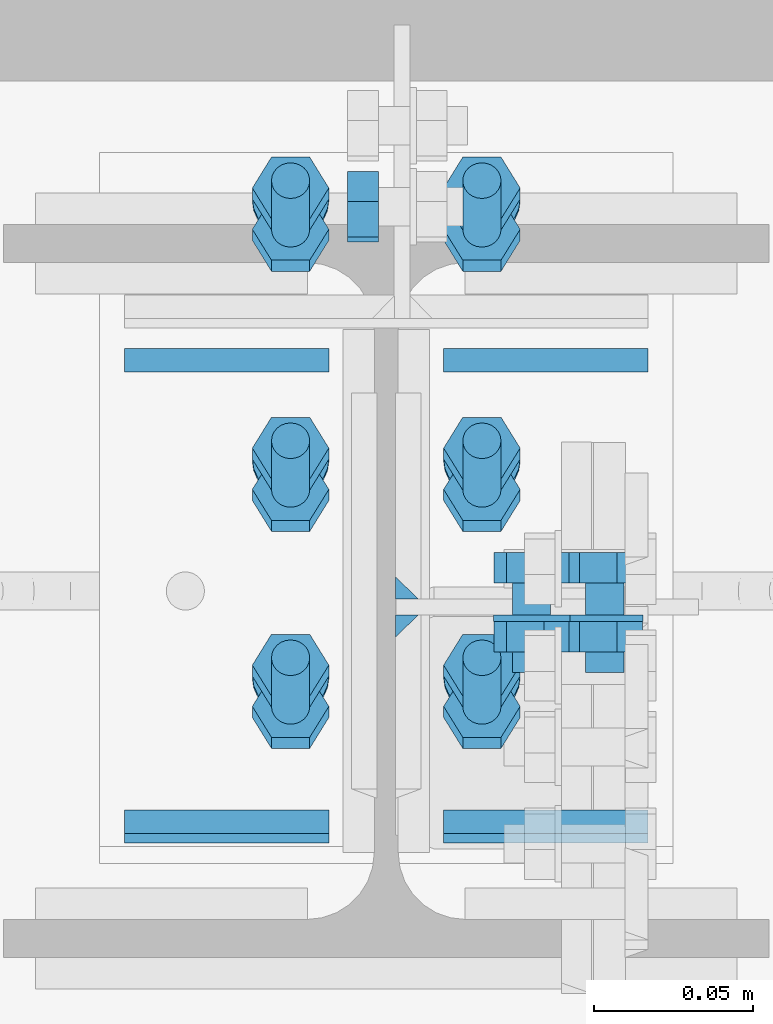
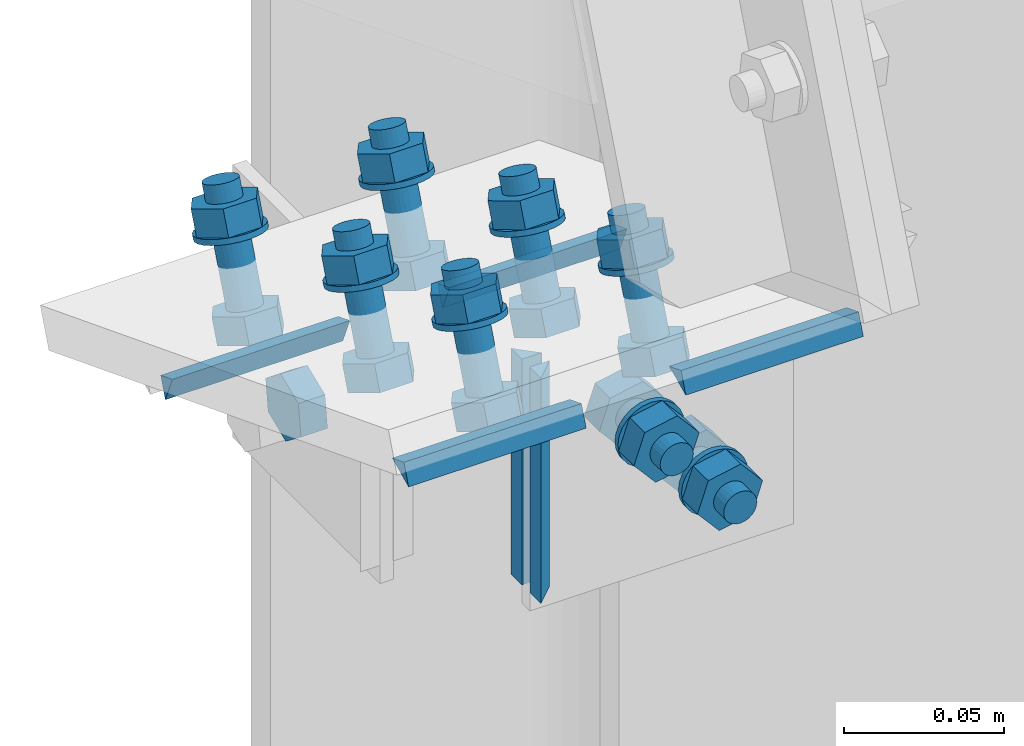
# One storey, part 22 of 72: 33 mechanical fasteners, 10 fasteners.
"""IFC4 building model written with IfcOpenShell, lengths in metres."""

from ifc_helpers import new_model, si_unit, frame, origin_with_axes, place, context, project, spatial, polyline, outline, extrude, type_object, element, save


model = new_model("IFC4")

# Units and contexts
model_context = context("Model", 3, precision=1e-05, world=origin_with_axes())
ifc_project = project(units=[si_unit("LENGTHUNIT", "METRE"), si_unit("AREAUNIT", "SQUARE_METRE"), si_unit("VOLUMEUNIT", "CUBIC_METRE"), si_unit("MASSUNIT", "GRAM", prefix="KILO"), si_unit("TIMEUNIT", "SECOND"), si_unit("PLANEANGLEUNIT", "RADIAN"), si_unit("SOLIDANGLEUNIT", "STERADIAN"), si_unit("THERMODYNAMICTEMPERATUREUNIT", "DEGREE_CELSIUS")], contexts=[model_context])

# Site, building, storey
placement_1 = place(None, origin_with_axes())
site = spatial("IfcSite", under=ifc_project, at=placement_1, Name="Italia", CompositionType="ELEMENT")
building = spatial("IfcBuilding", under=site, at=placement_1, Name="Uffici", CompositionType="ELEMENT")
storey = spatial("IfcBuildingStorey", under=building, at=placement_1, Name="Storey 0", CompositionType="ELEMENT", Elevation=0.0)

# Fasteners
fastener_type_1 = type_object("IfcFastenerType", Name="Collegamento 0201_0101", PredefinedType="WELD")
placement_2 = place(placement_1, origin_with_axes())
fastener_1_placement = place(placement_2, origin_with_axes())
element("IfcFastener", 1, at=fastener_1_placement, inside=storey, type_object=fastener_type_1, Name="Collegamento 0201_0101", context=model_context, shape_type="SweptSolid", body=[
    extrude(outline(polyline([(0.0, 0.0), (-0.00443701, -0.0104866), (-0.00739191, -0.00286627), (0.0, 0.0)])), frame((0.08205, 0.0686731, 6.96138), z_axis=(-1.0, 0.0, 0.0), x_axis=(0.0, -1.0, 0.0)), (0.0, 0.0, 1.0), 0.0641),
])
fastener_type_2 = type_object("IfcFastenerType", Name="Collegamento 0201_0101", PredefinedType="WELD")
fastener_2_placement = place(placement_2, origin_with_axes())
element("IfcFastener", 2, at=fastener_2_placement, inside=storey, type_object=fastener_type_2, Name="Collegamento 0201_0101", context=model_context, shape_type="SweptSolid", body=[
    extrude(outline(polyline([(0.0, 0.0), (-0.0103468, -0.00475454), (-0.00739191, 0.00286627), (0.0, 0.0)])), frame((0.01795, -0.0686362, 7.01462), z_axis=(1.0, 0.0, 0.0), x_axis=(0.0, 1.0, 0.0)), (0.0, 0.0, 1.0), 0.0641),
])
fastener_type_3 = type_object("IfcFastenerType", Name="Collegamento 0201_0101", PredefinedType="WELD")
fastener_3_placement = place(placement_2, origin_with_axes())
element("IfcFastener", 3, at=fastener_3_placement, inside=storey, type_object=fastener_type_3, Name="Collegamento 0201_0101", context=model_context, shape_type="SweptSolid", body=[
    extrude(outline(polyline([(0.0, 0.0), (-0.0103468, -0.00475454), (-0.00739191, 0.00286627), (0.0, 0.0)])), frame((-0.08205, -0.0686362, 7.01462), z_axis=(1.0, 0.0, 0.0), x_axis=(0.0, 1.0, 0.0)), (0.0, 0.0, 1.0), 0.0641),
])
fastener_type_4 = type_object("IfcFastenerType", Name="Collegamento 0201_0101", PredefinedType="WELD")
fastener_4_placement = place(placement_2, origin_with_axes())
element("IfcFastener", 4, at=fastener_4_placement, inside=storey, type_object=fastener_type_4, Name="Collegamento 0201_0101", context=model_context, shape_type="SweptSolid", body=[
    extrude(outline(polyline([(0.0, 0.0), (-0.00443701, -0.0104866), (-0.00739191, -0.00286627), (0.0, 0.0)])), frame((-0.01795, 0.0686731, 6.96138), z_axis=(-1.0, 0.0, 0.0), x_axis=(0.0, -1.0, 0.0)), (0.0, 0.0, 1.0), 0.0641),
])
fastener_type_5 = type_object("IfcFastenerType", Name="Collegamento 0201_0101", PredefinedType="WELD")
fastener_5_placement = place(placement_2, origin_with_axes())
element("IfcFastener", 5, at=fastener_5_placement, inside=storey, type_object=fastener_type_5, Name="Collegamento 0201_0101", context=model_context, shape_type="SweptSolid", body=[
    extrude(outline(polyline([(0.0, 0.0), (-0.00443701, -0.0104866), (-0.00739191, -0.00286627), (0.0, 0.0)])), frame((0.08205, 0.0686731, 6.96138), z_axis=(-1.0, 0.0, 0.0), x_axis=(0.0, -1.0, 0.0)), (0.0, 0.0, 1.0), 0.0641),
])
fastener_type_6 = type_object("IfcFastenerType", Name="Collegamento 0201_0101", PredefinedType="WELD")
fastener_6_placement = place(placement_2, origin_with_axes())
element("IfcFastener", 6, at=fastener_6_placement, inside=storey, type_object=fastener_type_6, Name="Collegamento 0201_0101", context=model_context, shape_type="SweptSolid", body=[
    extrude(outline(polyline([(0.0, 0.0), (-0.0103468, -0.00475454), (-0.00739191, 0.00286627), (0.0, 0.0)])), frame((0.01795, -0.0686362, 7.01462), z_axis=(1.0, 0.0, 0.0), x_axis=(0.0, 1.0, 0.0)), (0.0, 0.0, 1.0), 0.0641),
])
fastener_type_7 = type_object("IfcFastenerType", Name="Collegamento 0201_0101", PredefinedType="WELD")
fastener_7_placement = place(placement_2, origin_with_axes())
element("IfcFastener", 7, at=fastener_7_placement, inside=storey, type_object=fastener_type_7, Name="Collegamento 0201_0101", context=model_context, shape_type="SweptSolid", body=[
    extrude(outline(polyline([(0.0, 0.0), (-0.0103468, -0.00475454), (-0.00739191, 0.00286627), (0.0, 0.0)])), frame((-0.08205, -0.0686362, 7.01462), z_axis=(1.0, 0.0, 0.0), x_axis=(0.0, 1.0, 0.0)), (0.0, 0.0, 1.0), 0.0641),
])
fastener_type_8 = type_object("IfcFastenerType", Name="Collegamento 0201_0101", PredefinedType="WELD")
fastener_8_placement = place(placement_2, origin_with_axes())
element("IfcFastener", 8, at=fastener_8_placement, inside=storey, type_object=fastener_type_8, Name="Collegamento 0201_0101", context=model_context, shape_type="SweptSolid", body=[
    extrude(outline(polyline([(0.0, 0.0), (-0.00443701, -0.0104866), (-0.00739191, -0.00286627), (0.0, 0.0)])), frame((-0.01795, 0.0686731, 6.96138), z_axis=(-1.0, 0.0, 0.0), x_axis=(0.0, -1.0, 0.0)), (0.0, 0.0, 1.0), 0.0641),
])

# Mechanical fasteners
mechanical_fastener_type_1 = type_object("IfcMechanicalFastenerType", Name="Collegamento 0201_0101", PredefinedType="BOLT")
mechanical_fastener_1_placement = place(placement_2, origin_with_axes())
element("IfcMechanicalFastener", 9, at=mechanical_fastener_1_placement, inside=storey, type_object=mechanical_fastener_type_1, Name="Collegamento 0201_0101", NominalDiameter=0.012, context=model_context, shape_type="SweptSolid", body=[
    extrude(outline(polyline([(0.0, 0.0), (0.012, 0.0), (0.018, -0.0103922), (0.012, -0.0207846), (0.0, -0.0207846), (-0.006, -0.0103922), (0.0, 0.0)])), frame((0.024, 0.103764, 6.94772), z_axis=(0.0, -0.361526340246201, -0.932361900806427), x_axis=(1.0, 0.0, 0.0)), (0.0, 0.0, 1.0), 0.00960004),
])
mechanical_fastener_type_2 = type_object("IfcMechanicalFastenerType", Name="Collegamento 0201_0101", PredefinedType="BOLT")
mechanical_fastener_2_placement = place(placement_2, origin_with_axes())
element("IfcMechanicalFastener", 10, at=mechanical_fastener_2_placement, inside=storey, type_object=mechanical_fastener_type_2, Name="Collegamento 0201_0101", NominalDiameter=0.012, context=model_context, shape_type="SweptSolid", body=[
    extrude(outline(polyline([(0.0, 0.0), (-0.000204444, -0.00155282), (-0.000803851, -0.00300002), (-0.00175736, -0.00424266), (-0.003, -0.00519633), (-0.00444709, -0.00579548), (-0.006, -0.0059998), (-0.00755292, -0.00579548), (-0.009, -0.00519633), (-0.0102426, -0.00424266), (-0.0111962, -0.00300002), (-0.0117956, -0.00155282), (-0.012, 0.0), (-0.0117956, 0.00155282), (-0.0111962, 0.00300002), (-0.0102426, 0.00424266), (-0.009, 0.00519633), (-0.00755291, 0.00579548), (-0.006, 0.00600004), (-0.00444709, 0.00579548), (-0.003, 0.00519633), (-0.00175736, 0.00424266), (-0.000803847, 0.00300002), (-0.000204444, 0.00155282), (0.0, 0.0)])), frame((0.036, 0.12871, 6.9833), z_axis=(0.0, -0.361526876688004, -0.932361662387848), x_axis=(1.0, 0.0, 0.0)), (0.0, 0.0, 1.0), 0.0422001),
])
mechanical_fastener_type_3 = type_object("IfcMechanicalFastenerType", Name="Collegamento 0201_0101", PredefinedType="BOLT")
mechanical_fastener_3_placement = place(placement_2, origin_with_axes())
element("IfcMechanicalFastener", 11, at=mechanical_fastener_3_placement, inside=storey, type_object=mechanical_fastener_type_3, Name="Collegamento 0201_0101", NominalDiameter=0.012, context=model_context, shape_type="SweptSolid", body=[
    extrude(outline(polyline([(0.0, 0.0), (0.012, 0.0), (0.018, -0.0103922), (0.012, -0.0207846), (0.0, -0.0207846), (-0.006, -0.0103922), (0.0, 0.0)])), frame((0.024, 0.116706, 6.9811), z_axis=(0.0, -0.361526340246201, -0.932361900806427), x_axis=(1.0, 0.0, 0.0)), (0.0, 0.0, 1.0), 0.00960004),
])
mechanical_fastener_type_4 = type_object("IfcMechanicalFastenerType", Name="Collegamento 0201_0101", PredefinedType="BOLT")
mechanical_fastener_4_placement = place(placement_2, origin_with_axes())
element("IfcMechanicalFastener", 12, at=mechanical_fastener_4_placement, inside=storey, type_object=mechanical_fastener_type_4, Name="Collegamento 0201_0101", NominalDiameter=0.024, context=model_context, shape_type="SweptSolid", body=[
    extrude(outline(polyline([(0.0, 0.0), (-0.000408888, -0.00310588), (-0.00160769, -0.00600004), (-0.00351472, -0.00848532), (-0.006, -0.0103922), (-0.00889417, -0.0115912), (-0.012, -0.0120001), (-0.0151058, -0.0115912), (-0.018, -0.0103922), (-0.0204853, -0.00848532), (-0.0223923, -0.00600004), (-0.0235911, -0.00310588), (-0.024, 0.0), (-0.0235911, 0.00310564), (-0.0223923, 0.00600004), (-0.0204853, 0.00848508), (-0.018, 0.0103922), (-0.0151058, 0.011591), (-0.012, 0.0119998), (-0.00889417, 0.011591), (-0.006, 0.0103922), (-0.00351471, 0.00848508), (-0.00160769, 0.00600004), (-0.000408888, 0.00310564), (0.0, 0.0)])), frame((0.042, 0.122925, 6.96839), z_axis=(0.0, -0.361528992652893, -0.932360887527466), x_axis=(1.0, 0.0, 0.0)), (0.0, 0.0, 1.0), 0.0020002),
])
mechanical_fastener_type_5 = type_object("IfcMechanicalFastenerType", Name="Collegamento 0201_0101", PredefinedType="BOLT")
mechanical_fastener_5_placement = place(placement_2, origin_with_axes())
element("IfcMechanicalFastener", 13, at=mechanical_fastener_5_placement, inside=storey, type_object=mechanical_fastener_type_5, Name="Collegamento 0201_0101", NominalDiameter=0.012, context=model_context, shape_type="SweptSolid", body=[
    extrude(outline(polyline([(0.0, 0.0), (0.012, 0.0), (0.018, -0.0103922), (0.012, -0.0207846), (0.0, -0.0207846), (-0.006, -0.0103922), (0.0, 0.0)])), frame((-0.036, 0.103764, 6.94772), z_axis=(0.0, -0.361526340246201, -0.932361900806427), x_axis=(1.0, 0.0, 0.0)), (0.0, 0.0, 1.0), 0.00960004),
])
mechanical_fastener_type_6 = type_object("IfcMechanicalFastenerType", Name="Collegamento 0201_0101", PredefinedType="BOLT")
mechanical_fastener_6_placement = place(placement_2, origin_with_axes())
element("IfcMechanicalFastener", 14, at=mechanical_fastener_6_placement, inside=storey, type_object=mechanical_fastener_type_6, Name="Collegamento 0201_0101", NominalDiameter=0.012, context=model_context, shape_type="SweptSolid", body=[
    extrude(outline(polyline([(0.0, 0.0), (-0.000204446, -0.00155282), (-0.000803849, -0.00300002), (-0.00175736, -0.00424266), (-0.003, -0.00519633), (-0.00444709, -0.00579548), (-0.006, -0.0059998), (-0.00755291, -0.00579548), (-0.009, -0.00519633), (-0.0102426, -0.00424266), (-0.0111962, -0.00300002), (-0.0117956, -0.00155282), (-0.012, 0.0), (-0.0117956, 0.00155282), (-0.0111962, 0.00300002), (-0.0102426, 0.00424266), (-0.009, 0.00519633), (-0.00755291, 0.00579548), (-0.006, 0.00600004), (-0.00444709, 0.00579548), (-0.003, 0.00519633), (-0.00175736, 0.00424266), (-0.000803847, 0.00300002), (-0.000204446, 0.00155282), (0.0, 0.0)])), frame((-0.024, 0.12871, 6.9833), z_axis=(0.0, -0.361526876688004, -0.932361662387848), x_axis=(1.0, 0.0, 0.0)), (0.0, 0.0, 1.0), 0.0422001),
])
mechanical_fastener_type_7 = type_object("IfcMechanicalFastenerType", Name="Collegamento 0201_0101", PredefinedType="BOLT")
mechanical_fastener_7_placement = place(placement_2, origin_with_axes())
element("IfcMechanicalFastener", 15, at=mechanical_fastener_7_placement, inside=storey, type_object=mechanical_fastener_type_7, Name="Collegamento 0201_0101", NominalDiameter=0.012, context=model_context, shape_type="SweptSolid", body=[
    extrude(outline(polyline([(0.0, 0.0), (0.012, 0.0), (0.018, -0.0103922), (0.012, -0.0207846), (0.0, -0.0207846), (-0.006, -0.0103922), (0.0, 0.0)])), frame((-0.036, 0.116706, 6.9811), z_axis=(0.0, -0.361526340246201, -0.932361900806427), x_axis=(1.0, 0.0, 0.0)), (0.0, 0.0, 1.0), 0.00960004),
])
mechanical_fastener_type_8 = type_object("IfcMechanicalFastenerType", Name="Collegamento 0201_0101", PredefinedType="BOLT")
mechanical_fastener_8_placement = place(placement_2, origin_with_axes())
element("IfcMechanicalFastener", 16, at=mechanical_fastener_8_placement, inside=storey, type_object=mechanical_fastener_type_8, Name="Collegamento 0201_0101", NominalDiameter=0.024, context=model_context, shape_type="SweptSolid", body=[
    extrude(outline(polyline([(0.0, 0.0), (-0.00040889, -0.00310588), (-0.0016077, -0.00600004), (-0.00351472, -0.00848532), (-0.006, -0.0103922), (-0.00889417, -0.0115912), (-0.012, -0.0120001), (-0.0151058, -0.0115912), (-0.018, -0.0103922), (-0.0204853, -0.00848532), (-0.0223923, -0.00600004), (-0.0235911, -0.00310588), (-0.024, 0.0), (-0.0235911, 0.00310564), (-0.0223923, 0.00600004), (-0.0204853, 0.00848508), (-0.018, 0.0103922), (-0.0151058, 0.011591), (-0.012, 0.0119998), (-0.00889417, 0.011591), (-0.006, 0.0103922), (-0.00351472, 0.00848508), (-0.00160769, 0.00600004), (-0.00040889, 0.00310564), (0.0, 0.0)])), frame((-0.018, 0.122925, 6.96839), z_axis=(0.0, -0.361528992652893, -0.932360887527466), x_axis=(1.0, 0.0, 0.0)), (0.0, 0.0, 1.0), 0.0020002),
])
mechanical_fastener_type_9 = type_object("IfcMechanicalFastenerType", Name="Collegamento 0201_0101", PredefinedType="BOLT")
mechanical_fastener_9_placement = place(placement_2, origin_with_axes())
element("IfcMechanicalFastener", 17, at=mechanical_fastener_9_placement, inside=storey, type_object=mechanical_fastener_type_9, Name="Collegamento 0201_0101", NominalDiameter=0.012, context=model_context, shape_type="SweptSolid", body=[
    extrude(outline(polyline([(0.0, 0.0), (0.012, 0.0), (0.018, -0.0103927), (0.012, -0.0207849), (0.0, -0.0207849), (-0.006, -0.0103927), (0.0, 0.0)])), frame((0.024, -0.0458802, 7.00574), z_axis=(0.0, -0.361526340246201, -0.932361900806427), x_axis=(1.0, 0.0, 0.0)), (0.0, 0.0, 1.0), 0.00960004),
])
mechanical_fastener_type_10 = type_object("IfcMechanicalFastenerType", Name="Collegamento 0201_0101", PredefinedType="BOLT")
mechanical_fastener_10_placement = place(placement_2, origin_with_axes())
element("IfcMechanicalFastener", 18, at=mechanical_fastener_10_placement, inside=storey, type_object=mechanical_fastener_type_10, Name="Collegamento 0201_0101", NominalDiameter=0.012, context=model_context, shape_type="SweptSolid", body=[
    extrude(outline(polyline([(0.0, 0.0), (-0.000204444, -0.00155282), (-0.000803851, -0.00300002), (-0.00175736, -0.00424266), (-0.003, -0.00519633), (-0.00444709, -0.00579548), (-0.006, -0.00600004), (-0.00755292, -0.00579548), (-0.009, -0.00519633), (-0.0102426, -0.00424266), (-0.0111962, -0.00300002), (-0.0117956, -0.00155282), (-0.012, 0.0), (-0.0117956, 0.00155282), (-0.0111962, 0.00300002), (-0.0102426, 0.00424266), (-0.009, 0.00519633), (-0.00755291, 0.00579548), (-0.006, 0.0059998), (-0.00444709, 0.00579548), (-0.003, 0.00519633), (-0.00175736, 0.00424266), (-0.000803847, 0.00300002), (-0.000204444, 0.00155282), (0.0, 0.0)])), frame((0.036, -0.0209343, 7.04133), z_axis=(0.0, -0.361528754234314, -0.932360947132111), x_axis=(1.0, 0.0, 0.0)), (0.0, 0.0, 1.0), 0.0422001),
])
mechanical_fastener_type_11 = type_object("IfcMechanicalFastenerType", Name="Collegamento 0201_0101", PredefinedType="BOLT")
mechanical_fastener_11_placement = place(placement_2, origin_with_axes())
element("IfcMechanicalFastener", 19, at=mechanical_fastener_11_placement, inside=storey, type_object=mechanical_fastener_type_11, Name="Collegamento 0201_0101", NominalDiameter=0.012, context=model_context, shape_type="SweptSolid", body=[
    extrude(outline(polyline([(0.0, 0.0), (0.012, 0.0), (0.018, -0.0103922), (0.012, -0.0207844), (0.0, -0.0207844), (-0.006, -0.0103922), (0.0, 0.0)])), frame((0.024, -0.0329375, 7.03912), z_axis=(0.0, -0.36154305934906, -0.932355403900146), x_axis=(1.0, 0.0, 0.0)), (0.0, 0.0, 1.0), 0.00959959),
])
mechanical_fastener_type_12 = type_object("IfcMechanicalFastenerType", Name="Collegamento 0201_0101", PredefinedType="BOLT")
mechanical_fastener_12_placement = place(placement_2, origin_with_axes())
element("IfcMechanicalFastener", 20, at=mechanical_fastener_12_placement, inside=storey, type_object=mechanical_fastener_type_12, Name="Collegamento 0201_0101", NominalDiameter=0.024, context=model_context, shape_type="SweptSolid", body=[
    extrude(outline(polyline([(0.0, 0.0), (-0.000408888, -0.00310612), (-0.00160769, -0.00600028), (-0.00351472, -0.00848532), (-0.006, -0.0103924), (-0.00889417, -0.0115912), (-0.012, -0.0120001), (-0.0151058, -0.0115912), (-0.018, -0.0103924), (-0.0204853, -0.00848532), (-0.0223923, -0.00600028), (-0.0235911, -0.00310612), (-0.024, 0.0), (-0.0235911, 0.00310564), (-0.0223923, 0.0059998), (-0.0204853, 0.00848508), (-0.018, 0.0103924), (-0.0151058, 0.011591), (-0.012, 0.0119998), (-0.00889417, 0.011591), (-0.006, 0.0103924), (-0.00351471, 0.00848508), (-0.00160769, 0.0059998), (-0.000408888, 0.00310564), (0.0, 0.0)])), frame((0.042, -0.0267188, 7.02641), z_axis=(0.0, -0.361415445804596, -0.93240487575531), x_axis=(1.0, 0.0, 0.0)), (0.0, 0.0, 1.0), 0.00200062),
])
mechanical_fastener_type_13 = type_object("IfcMechanicalFastenerType", Name="Collegamento 0201_0101", PredefinedType="BOLT")
mechanical_fastener_13_placement = place(placement_2, origin_with_axes())
element("IfcMechanicalFastener", 21, at=mechanical_fastener_13_placement, inside=storey, type_object=mechanical_fastener_type_13, Name="Collegamento 0201_0101", NominalDiameter=0.012, context=model_context, shape_type="SweptSolid", body=[
    extrude(outline(polyline([(0.0, 0.0), (0.012, 0.0), (0.018, -0.0103927), (0.012, -0.0207849), (0.0, -0.0207849), (-0.006, -0.0103927), (0.0, 0.0)])), frame((-0.036, -0.0458802, 7.00574), z_axis=(0.0, -0.361526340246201, -0.932361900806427), x_axis=(1.0, 0.0, 0.0)), (0.0, 0.0, 1.0), 0.00960004),
])
mechanical_fastener_type_14 = type_object("IfcMechanicalFastenerType", Name="Collegamento 0201_0101", PredefinedType="BOLT")
mechanical_fastener_14_placement = place(placement_2, origin_with_axes())
element("IfcMechanicalFastener", 22, at=mechanical_fastener_14_placement, inside=storey, type_object=mechanical_fastener_type_14, Name="Collegamento 0201_0101", NominalDiameter=0.012, context=model_context, shape_type="SweptSolid", body=[
    extrude(outline(polyline([(0.0, 0.0), (-0.000204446, -0.00155282), (-0.000803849, -0.00300002), (-0.00175736, -0.00424266), (-0.003, -0.00519609), (-0.00444709, -0.00579548), (-0.006, -0.00600004), (-0.00755291, -0.00579548), (-0.009, -0.00519609), (-0.0102426, -0.00424266), (-0.0111962, -0.00300002), (-0.0117956, -0.00155282), (-0.012, 0.0), (-0.0117956, 0.00155282), (-0.0111962, 0.00300002), (-0.0102426, 0.00424266), (-0.009, 0.00519633), (-0.00755291, 0.00579548), (-0.006, 0.00600004), (-0.00444709, 0.00579548), (-0.003, 0.00519633), (-0.00175736, 0.00424266), (-0.000803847, 0.00300002), (-0.000204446, 0.00155282), (0.0, 0.0)])), frame((-0.024, -0.0209343, 7.04133), z_axis=(0.0, -0.361528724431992, -0.932361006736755), x_axis=(1.0, 0.0, 0.0)), (0.0, 0.0, 1.0), 0.0422001),
])
mechanical_fastener_type_15 = type_object("IfcMechanicalFastenerType", Name="Collegamento 0201_0101", PredefinedType="BOLT")
mechanical_fastener_15_placement = place(placement_2, origin_with_axes())
element("IfcMechanicalFastener", 23, at=mechanical_fastener_15_placement, inside=storey, type_object=mechanical_fastener_type_15, Name="Collegamento 0201_0101", NominalDiameter=0.012, context=model_context, shape_type="SweptSolid", body=[
    extrude(outline(polyline([(0.0, 0.0), (0.012, 0.0), (0.018, -0.0103922), (0.012, -0.0207844), (0.0, -0.0207844), (-0.006, -0.0103922), (0.0, 0.0)])), frame((-0.036, -0.0329375, 7.03912), z_axis=(0.0, -0.36154305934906, -0.932355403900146), x_axis=(1.0, 0.0, 0.0)), (0.0, 0.0, 1.0), 0.00959959),
])
mechanical_fastener_type_16 = type_object("IfcMechanicalFastenerType", Name="Collegamento 0201_0101", PredefinedType="BOLT")
mechanical_fastener_16_placement = place(placement_2, origin_with_axes())
element("IfcMechanicalFastener", 24, at=mechanical_fastener_16_placement, inside=storey, type_object=mechanical_fastener_type_16, Name="Collegamento 0201_0101", NominalDiameter=0.024, context=model_context, shape_type="SweptSolid", body=[
    extrude(outline(polyline([(0.0, 0.0), (-0.00040889, -0.00310612), (-0.0016077, -0.00600028), (-0.00351472, -0.00848532), (-0.006, -0.0103924), (-0.00889417, -0.0115914), (-0.012, -0.0120003), (-0.0151058, -0.0115914), (-0.018, -0.0103924), (-0.0204853, -0.00848532), (-0.0223923, -0.00600028), (-0.0235911, -0.00310612), (-0.024, 0.0), (-0.0235911, 0.00310564), (-0.0223923, 0.0059998), (-0.0204853, 0.00848508), (-0.018, 0.0103922), (-0.0151058, 0.011591), (-0.012, 0.0119998), (-0.00889417, 0.011591), (-0.006, 0.0103922), (-0.00351472, 0.00848508), (-0.00160769, 0.0059998), (-0.00040889, 0.00310564), (0.0, 0.0)])), frame((-0.018, -0.0267188, 7.02641), z_axis=(0.0, -0.3614162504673, -0.932404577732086), x_axis=(1.0, 0.0, 0.0)), (0.0, 0.0, 1.0), 0.00200062),
])
mechanical_fastener_type_17 = type_object("IfcMechanicalFastenerType", Name="Collegamento 0201_0101", PredefinedType="BOLT")
mechanical_fastener_17_placement = place(placement_2, origin_with_axes())
element("IfcMechanicalFastener", 25, at=mechanical_fastener_17_placement, inside=storey, type_object=mechanical_fastener_type_17, Name="Collegamento 0201_0101", NominalDiameter=0.012, context=model_context, shape_type="SweptSolid", body=[
    extrude(outline(polyline([(0.0, 0.0), (0.012, 0.0), (0.018, -0.0103924), (0.012, -0.0207846), (0.0, -0.0207846), (-0.006, -0.0103924), (0.0, 0.0)])), frame((0.024, 0.0221821, 6.97935), z_axis=(0.0, -0.361526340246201, -0.932361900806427), x_axis=(1.0, 0.0, 0.0)), (0.0, 0.0, 1.0), 0.00960004),
])
mechanical_fastener_type_18 = type_object("IfcMechanicalFastenerType", Name="Collegamento 0201_0101", PredefinedType="BOLT")
mechanical_fastener_18_placement = place(placement_2, origin_with_axes())
element("IfcMechanicalFastener", 26, at=mechanical_fastener_18_placement, inside=storey, type_object=mechanical_fastener_type_18, Name="Collegamento 0201_0101", NominalDiameter=0.012, context=model_context, shape_type="SweptSolid", body=[
    extrude(outline(polyline([(0.0, 0.0), (-0.000204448, -0.00155306), (-0.000803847, -0.00300002), (-0.00175736, -0.0042429), (-0.003, -0.00519609), (-0.00444709, -0.00579572), (-0.006, -0.00600004), (-0.00755292, -0.00579572), (-0.009, -0.00519609), (-0.0102426, -0.0042429), (-0.0111962, -0.00300002), (-0.0117956, -0.00155306), (-0.012, 0.0), (-0.0117956, 0.00155282), (-0.0111962, 0.00300002), (-0.0102426, 0.00424266), (-0.009, 0.00519609), (-0.00755291, 0.00579548), (-0.006, 0.00600004), (-0.00444709, 0.00579548), (-0.003, 0.00519609), (-0.00175736, 0.00424266), (-0.000803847, 0.00300002), (-0.000204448, 0.00155282), (0.0, 0.0)])), frame((0.036, 0.047128, 7.01494), z_axis=(0.0, -0.361532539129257, -0.932359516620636), x_axis=(1.0, 0.0, 0.0)), (0.0, 0.0, 1.0), 0.0421997),
])
mechanical_fastener_type_19 = type_object("IfcMechanicalFastenerType", Name="Collegamento 0201_0101", PredefinedType="BOLT")
mechanical_fastener_19_placement = place(placement_2, origin_with_axes())
element("IfcMechanicalFastener", 27, at=mechanical_fastener_19_placement, inside=storey, type_object=mechanical_fastener_type_19, Name="Collegamento 0201_0101", NominalDiameter=0.012, context=model_context, shape_type="SweptSolid", body=[
    extrude(outline(polyline([(0.0, 0.0), (0.012, 0.0), (0.018, -0.0103922), (0.012, -0.0207844), (0.0, -0.0207844), (-0.006, -0.0103922), (0.0, 0.0)])), frame((0.024, 0.0351248, 7.01273), z_axis=(0.0, -0.361526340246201, -0.932361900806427), x_axis=(1.0, 0.0, 0.0)), (0.0, 0.0, 1.0), 0.00960004),
])
mechanical_fastener_type_20 = type_object("IfcMechanicalFastenerType", Name="Collegamento 0201_0101", PredefinedType="BOLT")
mechanical_fastener_20_placement = place(placement_2, origin_with_axes())
element("IfcMechanicalFastener", 28, at=mechanical_fastener_20_placement, inside=storey, type_object=mechanical_fastener_type_20, Name="Collegamento 0201_0101", NominalDiameter=0.024, context=model_context, shape_type="SweptSolid", body=[
    extrude(outline(polyline([(0.0, 0.0), (-0.000408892, -0.00310588), (-0.0016077, -0.00600004), (-0.00351472, -0.00848532), (-0.006, -0.0103924), (-0.00889417, -0.0115912), (-0.012, -0.0119998), (-0.0151058, -0.0115912), (-0.018, -0.0103924), (-0.0204853, -0.00848532), (-0.0223923, -0.00600004), (-0.0235911, -0.00310588), (-0.024, 0.0), (-0.0235911, 0.00310588), (-0.0223923, 0.00600004), (-0.0204853, 0.00848532), (-0.018, 0.0103922), (-0.0151058, 0.0115912), (-0.012, 0.0119998), (-0.00889418, 0.0115912), (-0.006, 0.0103922), (-0.00351472, 0.00848532), (-0.00160769, 0.00600004), (-0.000408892, 0.00310588), (0.0, 0.0)])), frame((0.042, 0.0413436, 7.00002), z_axis=(0.0, -0.361576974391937, -0.932342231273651), x_axis=(1.0, 0.0, 0.0)), (0.0, 0.0, 1.0), 0.00199973),
])
mechanical_fastener_type_21 = type_object("IfcMechanicalFastenerType", Name="Collegamento 0201_0101", PredefinedType="BOLT")
mechanical_fastener_21_placement = place(placement_2, origin_with_axes())
element("IfcMechanicalFastener", 29, at=mechanical_fastener_21_placement, inside=storey, type_object=mechanical_fastener_type_21, Name="Collegamento 0201_0101", NominalDiameter=0.012, context=model_context, shape_type="SweptSolid", body=[
    extrude(outline(polyline([(0.0, 0.0), (0.012, 0.0), (0.018, -0.0103924), (0.012, -0.0207846), (0.0, -0.0207846), (-0.006, -0.0103924), (0.0, 0.0)])), frame((-0.036, 0.0221821, 6.97935), z_axis=(0.0, -0.361526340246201, -0.932361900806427), x_axis=(1.0, 0.0, 0.0)), (0.0, 0.0, 1.0), 0.00960004),
])
mechanical_fastener_type_22 = type_object("IfcMechanicalFastenerType", Name="Collegamento 0201_0101", PredefinedType="BOLT")
mechanical_fastener_22_placement = place(placement_2, origin_with_axes())
element("IfcMechanicalFastener", 30, at=mechanical_fastener_22_placement, inside=storey, type_object=mechanical_fastener_type_22, Name="Collegamento 0201_0101", NominalDiameter=0.012, context=model_context, shape_type="SweptSolid", body=[
    extrude(outline(polyline([(0.0, 0.0), (-0.000204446, -0.00155306), (-0.000803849, -0.00300002), (-0.00175736, -0.0042429), (-0.003, -0.00519609), (-0.00444709, -0.00579572), (-0.006, -0.00600004), (-0.00755291, -0.00579572), (-0.009, -0.00519609), (-0.0102426, -0.0042429), (-0.0111962, -0.00300002), (-0.0117956, -0.00155306), (-0.012, 0.0), (-0.0117956, 0.00155282), (-0.0111962, 0.00300002), (-0.0102426, 0.00424266), (-0.009, 0.00519609), (-0.00755291, 0.00579548), (-0.006, 0.00600004), (-0.00444709, 0.00579548), (-0.003, 0.00519609), (-0.00175736, 0.00424266), (-0.000803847, 0.00300002), (-0.000204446, 0.00155282), (0.0, 0.0)])), frame((-0.024, 0.047128, 7.01494), z_axis=(0.0, -0.361532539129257, -0.932359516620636), x_axis=(1.0, 0.0, 0.0)), (0.0, 0.0, 1.0), 0.0421997),
])
mechanical_fastener_type_23 = type_object("IfcMechanicalFastenerType", Name="Collegamento 0201_0101", PredefinedType="BOLT")
mechanical_fastener_23_placement = place(placement_2, origin_with_axes())
element("IfcMechanicalFastener", 31, at=mechanical_fastener_23_placement, inside=storey, type_object=mechanical_fastener_type_23, Name="Collegamento 0201_0101", NominalDiameter=0.012, context=model_context, shape_type="SweptSolid", body=[
    extrude(outline(polyline([(0.0, 0.0), (0.012, 0.0), (0.018, -0.0103922), (0.012, -0.0207844), (0.0, -0.0207844), (-0.006, -0.0103922), (0.0, 0.0)])), frame((-0.036, 0.0351248, 7.01273), z_axis=(0.0, -0.361526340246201, -0.932361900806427), x_axis=(1.0, 0.0, 0.0)), (0.0, 0.0, 1.0), 0.00960004),
])
mechanical_fastener_type_24 = type_object("IfcMechanicalFastenerType", Name="Collegamento 0201_0101", PredefinedType="BOLT")
mechanical_fastener_24_placement = place(placement_2, origin_with_axes())
element("IfcMechanicalFastener", 32, at=mechanical_fastener_24_placement, inside=storey, type_object=mechanical_fastener_type_24, Name="Collegamento 0201_0101", NominalDiameter=0.024, context=model_context, shape_type="SweptSolid", body=[
    extrude(outline(polyline([(0.0, 0.0), (-0.00040889, -0.00310588), (-0.0016077, -0.00600004), (-0.00351472, -0.00848532), (-0.006, -0.0103924), (-0.00889417, -0.0115912), (-0.012, -0.0119998), (-0.0151058, -0.0115912), (-0.018, -0.0103924), (-0.0204853, -0.00848532), (-0.0223923, -0.00600004), (-0.0235911, -0.00310588), (-0.024, 0.0), (-0.0235911, 0.00310588), (-0.0223923, 0.00600004), (-0.0204853, 0.00848532), (-0.018, 0.0103922), (-0.0151058, 0.0115912), (-0.012, 0.0119998), (-0.00889417, 0.0115912), (-0.006, 0.0103922), (-0.00351472, 0.00848532), (-0.00160769, 0.00600004), (-0.00040889, 0.00310588), (0.0, 0.0)])), frame((-0.018, 0.0413436, 7.00002), z_axis=(0.0, -0.361576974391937, -0.932342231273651), x_axis=(1.0, 0.0, 0.0)), (0.0, 0.0, 1.0), 0.00199973),
])
mechanical_fastener_type_25 = type_object("IfcMechanicalFastenerType", Name="Collegamento 0201_0102", PredefinedType="BOLT")
mechanical_fastener_25_placement = place(placement_2, origin_with_axes())
element("IfcMechanicalFastener", 33, at=mechanical_fastener_25_placement, inside=storey, type_object=mechanical_fastener_type_25, Name="Collegamento 0201_0102", NominalDiameter=0.0119998, context=model_context, shape_type="SweptSolid", body=[
    extrude(outline(polyline([(0.0, 0.0), (0.00786194, 0.00906563), (0.00394163, 0.0204072), (-0.00784062, 0.0226831), (-0.0157025, 0.013617), (-0.0117823, 0.00227547), (0.0, 0.0)])), frame((0.0416649, 0.0025, 6.93199), z_axis=(0.0, 1.0, 0.0), x_axis=(-1.0, 0.0, 0.0)), (0.0, 0.0, 1.0), 0.0096),
])
mechanical_fastener_type_26 = type_object("IfcMechanicalFastenerType", Name="Collegamento 0201_0102", PredefinedType="BOLT")
mechanical_fastener_26_placement = place(placement_2, origin_with_axes())
element("IfcMechanicalFastener", 34, at=mechanical_fastener_26_placement, inside=storey, type_object=mechanical_fastener_type_26, Name="Collegamento 0201_0102", NominalDiameter=0.012, context=model_context, shape_type="SweptSolid", body=[
    extrude(outline(polyline([(0.0, 0.0), (-0.000204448, -0.00155306), (-0.000803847, -0.00299978), (-0.00175736, -0.00424242), (-0.003, -0.00519609), (-0.00444709, -0.00579548), (-0.006, -0.00600004), (-0.00755291, -0.00579548), (-0.009, -0.00519609), (-0.0102426, -0.00424242), (-0.0111962, -0.00299978), (-0.0117956, -0.00155306), (-0.012, 0.0), (-0.0117956, 0.00155306), (-0.0111962, 0.00299978), (-0.0102426, 0.00424242), (-0.009, 0.00519609), (-0.00755291, 0.00579548), (-0.006, 0.00600004), (-0.00444709, 0.00579548), (-0.003, 0.00519609), (-0.00175736, 0.00424242), (-0.000803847, 0.00299978), (-0.000204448, 0.00155306), (0.0, 0.0)])), frame((0.0395852, -0.0255, 6.94334), z_axis=(0.0, 1.0, 0.0), x_axis=(-1.0, 0.0, 0.0)), (0.0, 0.0, 1.0), 0.028),
])
mechanical_fastener_type_27 = type_object("IfcMechanicalFastenerType", Name="Collegamento 0201_0102", PredefinedType="BOLT")
mechanical_fastener_27_placement = place(placement_2, origin_with_axes())
element("IfcMechanicalFastener", 35, at=mechanical_fastener_27_placement, inside=storey, type_object=mechanical_fastener_type_27, Name="Collegamento 0201_0102", NominalDiameter=0.0119998, context=model_context, shape_type="SweptSolid", body=[
    extrude(outline(polyline([(0.0, 0.0), (0.00786194, 0.00906563), (0.00394163, 0.0204072), (-0.00784062, 0.0226831), (-0.0157025, 0.013617), (-0.0117823, 0.00227547), (0.0, 0.0)])), frame((0.0416649, -0.0191, 6.93199), z_axis=(0.0, 1.0, 0.0), x_axis=(-1.0, 0.0, 0.0)), (0.0, 0.0, 1.0), 0.0096),
])
mechanical_fastener_type_28 = type_object("IfcMechanicalFastenerType", Name="Collegamento 0201_0102", PredefinedType="BOLT")
mechanical_fastener_28_placement = place(placement_2, origin_with_axes())
element("IfcMechanicalFastener", 36, at=mechanical_fastener_28_placement, inside=storey, type_object=mechanical_fastener_type_28, Name="Collegamento 0201_0102", NominalDiameter=0.024, context=model_context, shape_type="SweptSolid", body=[
    extrude(outline(polyline([(0.0, 0.0), (-0.000408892, -0.00310564), (-0.0016077, -0.00600004), (-0.00351472, -0.00848532), (-0.006, -0.0103922), (-0.00889417, -0.011591), (-0.012, -0.0120001), (-0.0151058, -0.011591), (-0.018, -0.0103922), (-0.0204853, -0.00848532), (-0.0223923, -0.00600004), (-0.0235911, -0.00310564), (-0.024, 0.0), (-0.0235911, 0.00310564), (-0.0223923, 0.00600004), (-0.0204853, 0.00848532), (-0.018, 0.0103922), (-0.0151058, 0.011591), (-0.012, 0.0120001), (-0.00889418, 0.011591), (-0.006, 0.0103922), (-0.00351472, 0.00848532), (-0.00160769, 0.00600004), (-0.000408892, 0.00310564), (0.0, 0.0)])), frame((0.0335852, -0.0095, 6.94334), z_axis=(0.0, 1.0, 0.0), x_axis=(-1.0, 0.0, 0.0)), (0.0, 0.0, 1.0), 0.002),
])
mechanical_fastener_type_29 = type_object("IfcMechanicalFastenerType", Name="Collegamento 0201_0102", PredefinedType="BOLT")
mechanical_fastener_29_placement = place(placement_2, origin_with_axes())
element("IfcMechanicalFastener", 37, at=mechanical_fastener_29_placement, inside=storey, type_object=mechanical_fastener_type_29, Name="Collegamento 0201_0102", NominalDiameter=0.0119998, context=model_context, shape_type="SweptSolid", body=[
    extrude(outline(polyline([(0.0, 0.0), (0.00786194, 0.00906563), (0.00394164, 0.0204072), (-0.00784059, 0.0226831), (-0.0157025, 0.013617), (-0.0117822, 0.00227547), (0.0, 0.0)])), frame((0.0645956, 0.0025, 6.90555), z_axis=(0.0, 1.0, 0.0), x_axis=(-1.0, 0.0, 0.0)), (0.0, 0.0, 1.0), 0.0096),
])
mechanical_fastener_type_30 = type_object("IfcMechanicalFastenerType", Name="Collegamento 0201_0102", PredefinedType="BOLT")
mechanical_fastener_30_placement = place(placement_2, origin_with_axes())
element("IfcMechanicalFastener", 38, at=mechanical_fastener_30_placement, inside=storey, type_object=mechanical_fastener_type_30, Name="Collegamento 0201_0102", NominalDiameter=0.012, context=model_context, shape_type="SweptSolid", body=[
    extrude(outline(polyline([(0.0, 0.0), (-0.000204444, -0.00155306), (-0.000803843, -0.00299978), (-0.00175735, -0.00424242), (-0.003, -0.00519609), (-0.00444708, -0.00579548), (-0.006, -0.00600004), (-0.00755291, -0.00579548), (-0.009, -0.00519609), (-0.0102426, -0.00424242), (-0.0111962, -0.00299978), (-0.0117956, -0.00155306), (-0.012, 0.0), (-0.0117956, 0.00155306), (-0.0111962, 0.00299978), (-0.0102426, 0.00424242), (-0.009, 0.00519609), (-0.00755291, 0.00579548), (-0.006, 0.00600004), (-0.00444708, 0.00579548), (-0.003, 0.00519609), (-0.00175735, 0.00424242), (-0.000803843, 0.00299978), (-0.000204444, 0.00155306), (0.0, 0.0)])), frame((0.0625159, -0.0255, 6.91689), z_axis=(0.0, 1.0, 0.0), x_axis=(-1.0, 0.0, 0.0)), (0.0, 0.0, 1.0), 0.028),
])
mechanical_fastener_type_31 = type_object("IfcMechanicalFastenerType", Name="Collegamento 0201_0102", PredefinedType="BOLT")
mechanical_fastener_31_placement = place(placement_2, origin_with_axes())
element("IfcMechanicalFastener", 39, at=mechanical_fastener_31_placement, inside=storey, type_object=mechanical_fastener_type_31, Name="Collegamento 0201_0102", NominalDiameter=0.0119998, context=model_context, shape_type="SweptSolid", body=[
    extrude(outline(polyline([(0.0, 0.0), (0.00786194, 0.00906563), (0.00394164, 0.0204072), (-0.00784059, 0.0226831), (-0.0157025, 0.013617), (-0.0117822, 0.00227547), (0.0, 0.0)])), frame((0.0645956, -0.0191, 6.90555), z_axis=(0.0, 1.0, 0.0), x_axis=(-1.0, 0.0, 0.0)), (0.0, 0.0, 1.0), 0.0096),
])
mechanical_fastener_type_32 = type_object("IfcMechanicalFastenerType", Name="Collegamento 0201_0102", PredefinedType="BOLT")
mechanical_fastener_32_placement = place(placement_2, origin_with_axes())
element("IfcMechanicalFastener", 40, at=mechanical_fastener_32_placement, inside=storey, type_object=mechanical_fastener_type_32, Name="Collegamento 0201_0102", NominalDiameter=0.024, context=model_context, shape_type="SweptSolid", body=[
    extrude(outline(polyline([(0.0, 0.0), (-0.000408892, -0.00310564), (-0.0016077, -0.00600004), (-0.00351472, -0.00848532), (-0.006, -0.0103922), (-0.00889418, -0.011591), (-0.012, -0.0120001), (-0.0151058, -0.011591), (-0.018, -0.0103922), (-0.0204853, -0.00848532), (-0.0223923, -0.00600004), (-0.0235911, -0.00310564), (-0.024, 0.0), (-0.0235911, 0.00310564), (-0.0223923, 0.00600004), (-0.0204853, 0.00848532), (-0.018, 0.0103922), (-0.0151058, 0.011591), (-0.012, 0.0120001), (-0.00889418, 0.011591), (-0.006, 0.0103922), (-0.00351472, 0.00848532), (-0.00160769, 0.00600004), (-0.000408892, 0.00310564), (0.0, 0.0)])), frame((0.0565159, -0.0095, 6.91689), z_axis=(0.0, 1.0, 0.0), x_axis=(-1.0, 0.0, 0.0)), (0.0, 0.0, 1.0), 0.002),
])

# Fasteners
fastener_type_9 = type_object("IfcFastenerType", Name="Collegamento 0201_0102", PredefinedType="WELD")
fastener_9_placement = place(placement_2, origin_with_axes())
element("IfcFastener", 41, at=fastener_9_placement, inside=storey, type_object=fastener_type_9, Name="Collegamento 0201_0102", context=model_context, shape_type="SweptSolid", body=[
    extrude(outline(polyline([(0.0, 0.0), (0.00695815, 0.00717336), (0.00695815, 0.0), (0.0, 0.0)])), frame((0.00295, -0.0144082, 6.9825), z_axis=(0.0, 0.0, -1.0), x_axis=(0.0, 1.0, 0.0)), (0.0, 0.0, 1.0), 0.0861011),
])
fastener_type_10 = type_object("IfcFastenerType", Name="Collegamento 0201_0102", PredefinedType="WELD")
fastener_10_placement = place(placement_2, origin_with_axes())
element("IfcFastener", 42, at=fastener_10_placement, inside=storey, type_object=fastener_type_10, Name="Collegamento 0201_0102", context=model_context, shape_type="SweptSolid", body=[
    extrude(outline(polyline([(0.0, 0.0), (-0.00695816, -0.00717336), (-0.00695816, 0.0), (0.0, 0.0)])), frame((0.00295, 0.00440816, 6.8964), z_axis=(0.0, 0.0, 1.0), x_axis=(0.0, 1.0, 0.0)), (0.0, 0.0, 1.0), 0.0861011),
])

# Mechanical fastener
mechanical_fastener_type_33 = type_object("IfcMechanicalFastenerType", Name="Collegamento 0201_0106", PredefinedType="BOLT")
mechanical_fastener_33_placement = place(placement_2, origin_with_axes())
element("IfcMechanicalFastener", 43, at=mechanical_fastener_33_placement, inside=storey, type_object=mechanical_fastener_type_33, Name="Collegamento 0201_0106", NominalDiameter=0.0119997, context=model_context, shape_type="SweptSolid", body=[
    extrude(outline(polyline([(0.0, 0.0), (0.00950524, 0.00732422), (0.00791456, 0.0192184), (-0.0031814, 0.023788), (-0.0126866, 0.0164633), (-0.0110959, 0.00456905), (0.0, 0.0)])), frame((-0.0025, 0.118972, 6.88276), z_axis=(-1.0, 0.0, 0.0), x_axis=(0.0, -1.0, 0.0)), (0.0, 0.0, 1.0), 0.0096),
])

save(model, "model.ifc")
